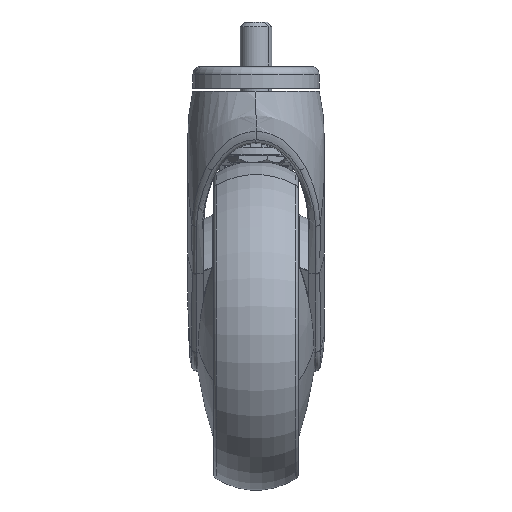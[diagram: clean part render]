
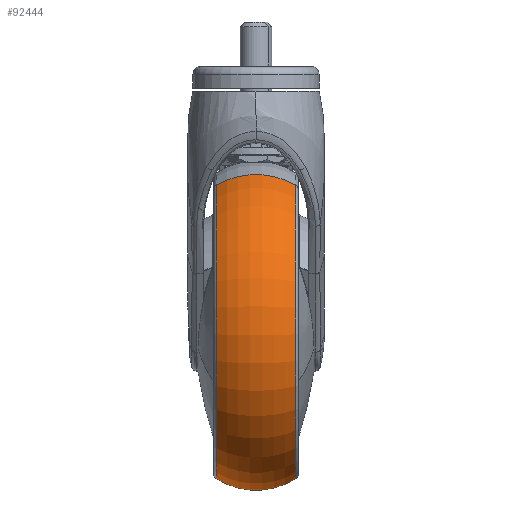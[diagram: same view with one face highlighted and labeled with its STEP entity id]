
A CAD part, left-side view. The second image highlights one B-rep face of the part: STEP entity #92444.
In plain terms, the highlighted toroidal (fillet/blend) face has major radius 34.5 mm and minor radius 28 mm.
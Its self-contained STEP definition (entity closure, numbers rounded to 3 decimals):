
#61 = ORIENTED_EDGE ( 'NONE', *, *, #3252, .F. ) ;
#1258 = CARTESIAN_POINT ( 'NONE',  ( 0.194, -25.577, 16.999 ) ) ;
#3252 = EDGE_CURVE ( 'NONE', #90672, #91685, #42705, .T. ) ;
#3276 = CARTESIAN_POINT ( 'NONE',  ( 45.967, -25.577, -89.794 ) ) ;
#3296 = CIRCLE ( 'NONE', #3304, 28. ) ;
#3304 = AXIS2_PLACEMENT_3D ( 'NONE', #3373, #3372, #3370 ) ;
#3370 = DIRECTION ( 'NONE',  ( -0.394, 0., 0.919 ) ) ;
#3372 = DIRECTION ( 'NONE',  ( -0.919, 0., -0.394 ) ) ;
#3373 = CARTESIAN_POINT ( 'NONE',  ( 36.672, -10.5, -68.107 ) ) ;
#4931 = AXIS2_PLACEMENT_3D ( 'NONE', #4967, #4952, #4951 ) ;
#4951 = DIRECTION ( 'NONE',  ( 0.394, 0., -0.919 ) ) ;
#4952 = DIRECTION ( 'NONE',  ( 0., -1., 0. ) ) ;
#4964 = TOROIDAL_SURFACE ( 'NONE', #4931, 34.5, 28. ) ;
#4967 = CARTESIAN_POINT ( 'NONE',  ( 23.08, -10.5, -36.397 ) ) ;
#4968 = FACE_OUTER_BOUND ( 'NONE', #92626, .T. ) ;
#5300 = VERTEX_POINT ( 'NONE', #43407 ) ;
#5491 = VERTEX_POINT ( 'NONE', #43401 ) ;
#42687 = CARTESIAN_POINT ( 'NONE',  ( 23.08, -25.577, -36.397 ) ) ;
#42705 = CIRCLE ( 'NONE', #42836, 58.094 ) ;
#42764 = DIRECTION ( 'NONE',  ( 0., -1., 0. ) ) ;
#42834 = DIRECTION ( 'NONE',  ( 0.394, 0., -0.919 ) ) ;
#42836 = AXIS2_PLACEMENT_3D ( 'NONE', #42687, #42764, #42834 ) ;
#43401 = CARTESIAN_POINT ( 'NONE',  ( 45.967, 4.577, -89.794 ) ) ;
#43407 = CARTESIAN_POINT ( 'NONE',  ( 0.194, 4.577, 16.999 ) ) ;
#52921 = DIRECTION ( 'NONE',  ( 0.394, 0., -0.919 ) ) ;
#52922 = DIRECTION ( 'NONE',  ( 0., -1., 0. ) ) ;
#52934 = AXIS2_PLACEMENT_3D ( 'NONE', #52960, #52922, #52921 ) ;
#52959 = CIRCLE ( 'NONE', #52934, 58.094 ) ;
#52960 = CARTESIAN_POINT ( 'NONE',  ( 23.08, 4.577, -36.397 ) ) ;
#61687 = DIRECTION ( 'NONE',  ( 0.394, 0., -0.919 ) ) ;
#62330 = CIRCLE ( 'NONE', #62341, 28. ) ;
#62337 = DIRECTION ( 'NONE',  ( 0.919, 0., 0.394 ) ) ;
#62339 = CARTESIAN_POINT ( 'NONE',  ( 9.489, -10.5, -4.687 ) ) ;
#62341 = AXIS2_PLACEMENT_3D ( 'NONE', #62339, #62337, #61687 ) ;
#69737 = EDGE_CURVE ( 'NONE', #5300, #5491, #52959, .T. ) ;
#90672 = VERTEX_POINT ( 'NONE', #1258 ) ;
#90674 = EDGE_CURVE ( 'NONE', #5300, #90672, #62330, .T. ) ;
#91685 = VERTEX_POINT ( 'NONE', #3276 ) ;
#91692 = EDGE_CURVE ( 'NONE', #5491, #91685, #3296, .T. ) ;
#92425 = ORIENTED_EDGE ( 'NONE', *, *, #90674, .F. ) ;
#92433 = ORIENTED_EDGE ( 'NONE', *, *, #91692, .T. ) ;
#92444 = ADVANCED_FACE ( 'NONE', ( #4968 ), #4964, .T. ) ;
#92448 = ORIENTED_EDGE ( 'NONE', *, *, #69737, .T. ) ;
#92626 = EDGE_LOOP ( 'NONE', ( #92425, #92448, #92433, #61 ) ) ;
